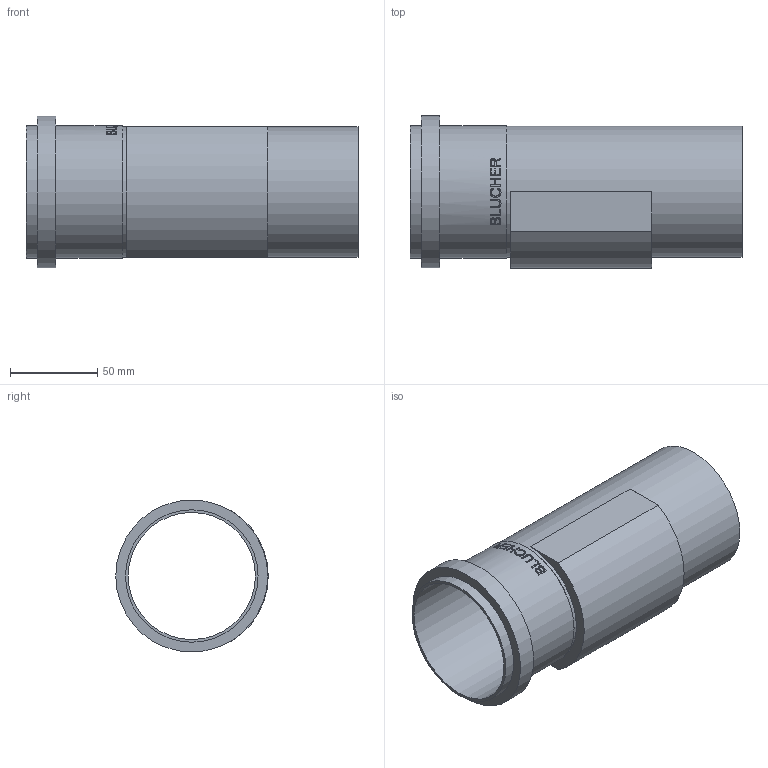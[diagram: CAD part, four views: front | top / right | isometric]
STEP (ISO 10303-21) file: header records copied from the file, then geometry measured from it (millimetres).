
FILE_DESCRIPTION((''),'2;1');
FILE_NAME('I:\WATTS\3D_CAD\3D_CAD_Models\Blucher_Drains\Fittings\Access Fittings\WebsiteFiles\3D\STEP\AP-3-316.stp','2009-12-22T10:28:23',('menesek'),(''),'Autodesk Inventor 2010','Autodesk Inventor 2010','');
FILE_SCHEMA(('AUTOMOTIVE_DESIGN { 1 0 10303 214 1 1 1 1 }'));
Length unit declared in the file: inch
Products named in the file (1): AP-3-316
Bounding box: 190.31 x 87.38 x 87.12 mm (x, y, z)
Volume: 116638.6 mm3; surface area: 95222.5 mm2
Topology: 1 solids, 1 shells, 113 faces, 291 edges, 194 vertices
Faces by surface type: plane 63, bspline 34, cylinder 16
Full cylindrical faces by diameter (mm): 72.898 x1, 74.93 x1, 75.946 x2, 87.122 x1
Entity records: 13959 total; most frequent: CARTESIAN_POINT 11460, ORIENTED_EDGE 572, DIRECTION 382, EDGE_CURVE 286, VERTEX_POINT 194, EDGE_LOOP 134, AXIS2_PLACEMENT_3D 129, VECTOR 124
